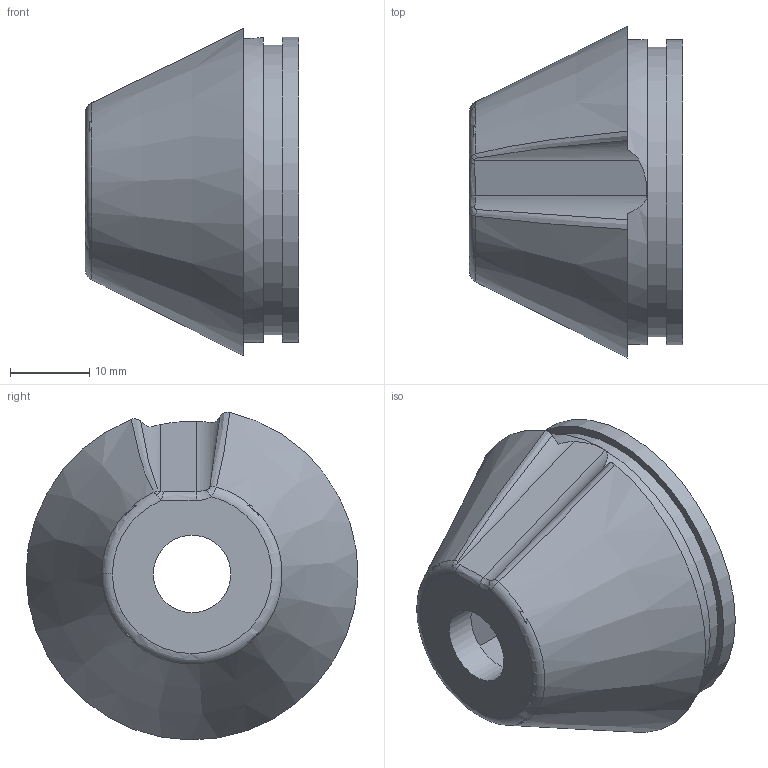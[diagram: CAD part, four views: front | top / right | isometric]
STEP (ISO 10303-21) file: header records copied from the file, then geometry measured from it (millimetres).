
FILE_DESCRIPTION(('Open CASCADE Model'),'2;1');
FILE_NAME('Open CASCADE Shape Model','2026-11-07T08:48:26',('Author'),( 'Open CASCADE'),'Open CASCADE STEP processor 8.0','build123d', 'Unknown');
FILE_SCHEMA(('AUTOMOTIVE_DESIGN { 1 0 10303 214 1 1 1 1 }'));
Length unit declared in the file: millimetre
Products named in the file (1): COMPOUND
Bounding box: 26.99 x 41.99 x 41.48 mm (x, y, z)
Volume: 8211.5 mm3; surface area: 10143.7 mm2
Topology: 1 solids, 1 shells, 58 faces, 150 edges, 98 vertices
Faces by surface type: plane 26, cylinder 21, bspline 7, cone 2, torus 2
Full cylindrical faces by diameter (mm): 9.8 x1, 32.6 x1, 36.6 x1, 38.6 x2
Entity records: 7462 total; most frequent: CARTESIAN_POINT 4804, DIRECTION 410, ORIENTED_EDGE 300, PCURVE 300, DEFINITIONAL_REPRESENTATION 300, B_SPLINE_CURVE_WITH_KNOTS 163, EDGE_CURVE 150, LINE 150
